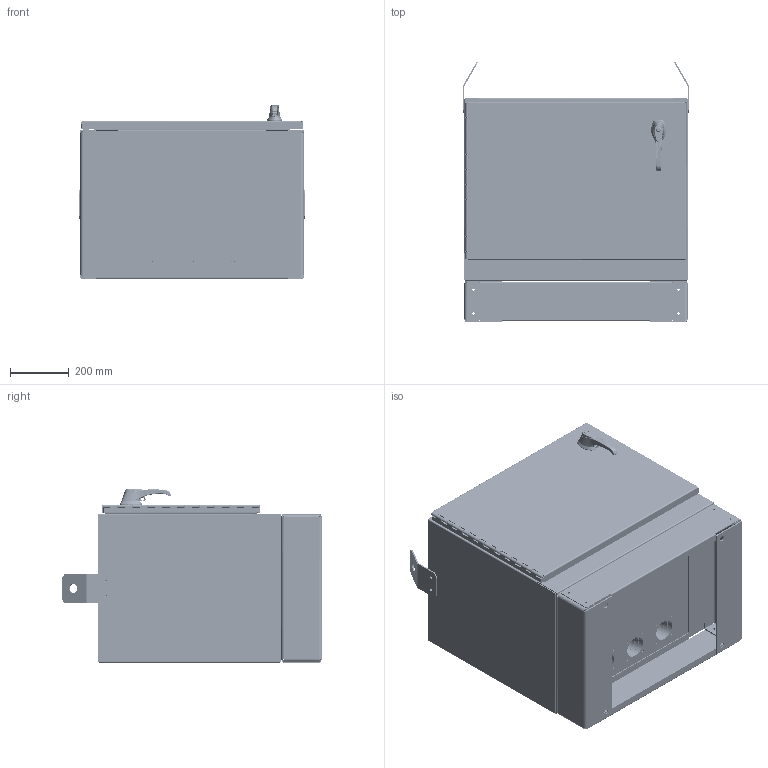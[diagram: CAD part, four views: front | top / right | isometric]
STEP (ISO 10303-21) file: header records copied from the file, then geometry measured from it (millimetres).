
FILE_DESCRIPTION (( 'STEP AP203' ), '1' );
FILE_NAME ('t303020fttx.STEP', '2010-12-03T18:36:55', ( 'Hoffman User' ), ( 'Hoffman Enclosures' ), 'SwSTEP 2.0', 'SolidWorks 2009', '' );
FILE_SCHEMA (( 'CONFIG_CONTROL_DESIGN' ));
Length unit declared in the file: inch
Products named in the file (60): 87921850_87921850; 89050095; 87920797_87920797; 89058580_89058580; 87921852_87921852; 87578925_87578925; 89049944_89049944; 27301003; 22108007; 87560090; 22318002; 27115004; 89048720; 89048721; 89048717; 26123007_26123007 ; 87793415_87793415; 87794148; 87544356_87544356; 99411366_93825A140; 99404050_99404050; 87920799_87920799; 87920596; t303020fttx; 87921858_87921858; 89058597_89058579; 87921873_87921873; 87920598_87920598; 87561705_87561705; 99415470_99415470; 89058581_89058581; 87921854_87921854; 89050096_89050096; 89049943_89049943; 89057778_89057778; 89057779_89057779; 87920789_87920789; 99404049_99404049; 26274009_26274009; 26273009_26273009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
Assembly tree (119 placements, depth 5):
  t303020fttx
    87920596  x2
    87921858_87921858
      89058597_89058579
        99404050_99404050  x4
        87921873_87921873  x2
        87561705_87561705  x8
        99415470_99415470  x5
        89050095  x4
        87920598_87920598  x2
        87921850_87921850
        87920797_87920797  x2
      89050096_89050096  x2
        89049943_89049943
      89058581_89058581
        87921854_87921854
      89058580_89058580
        87921852_87921852
    87794148
    46221001_46221001  x4
    99411366_93825A140  x2
    87920795_87920795
    26118002_26118002
    87544356_87544356
    87920799_87920799  x2
    87578925_87578925
    89049944_89049944  x2
    87793415_87793415
    87578937_87578937
      87948515_87933843
      87419080_87933944
    22131030
    87560141  x3
    89057778_89057778
      26274009_26274009
        30101003  x2
        26273009_26273009
        22318002
        27115001
      26118002_26118002
      99401452
      89057779_89057779
        99404049_99404049  x4
        27301003
        87920789_87920789
      22108007
      87560090
      87560001_Closed
        89048718
        89048719
        89048716
        89048714  x2
        89048717
        89048722
          89048721
          89048720
      27115004
      26123007_26123007 
      26123006
    89050557
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Bounding box: 773.33 x 886.5 x 591.9 mm (x, y, z)
Volume: 12912817 mm3; surface area: 8072165.6 mm2
Topology: 113 solids, 113 shells, 10488 faces, 28973 edges, 18917 vertices
Faces by surface type: plane 5101, cylinder 3165, bspline 1007, cone 1004, torus 183, sphere 28
Entity records: 199378 total; most frequent: CARTESIAN_POINT 75669, ORIENTED_EDGE 25052, DIRECTION 22491, EDGE_CURVE 12526, AXIS2_PLACEMENT_3D 8157, VERTEX_POINT 8124, VECTOR 6177, LINE 6177
